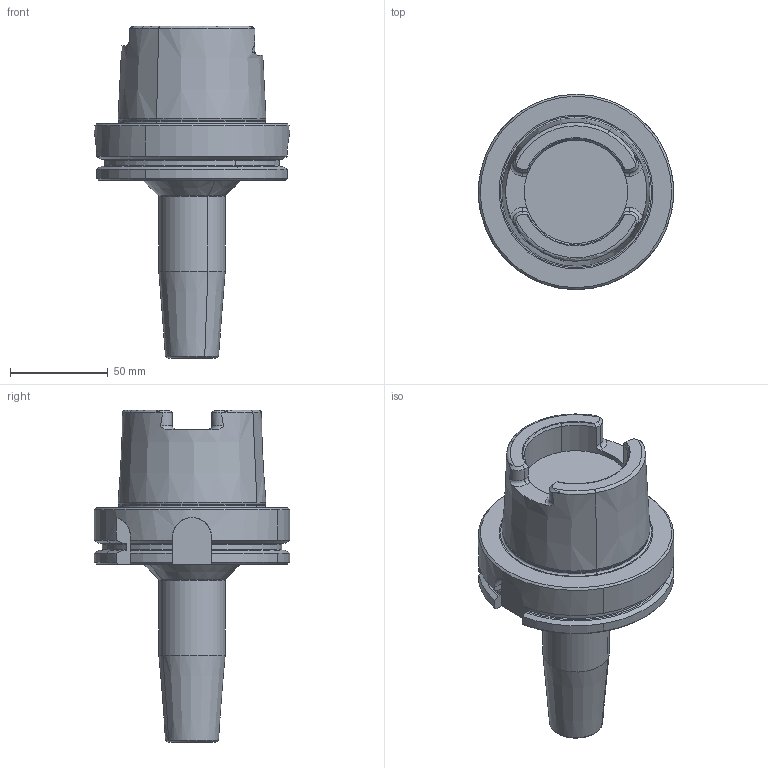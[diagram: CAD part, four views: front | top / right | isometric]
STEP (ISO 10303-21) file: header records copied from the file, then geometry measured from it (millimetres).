
FILE_DESCRIPTION(('CATIA V5 STEP Exchange','CAx-IF Rec.Pracs.--- Model Styling and Organization---1.2---2011-12-15'),'2;1');
FILE_NAME('I:\isr\design\admin8\users\tamer_s\4504234 L.stp','2014-04-03T12:23:03+00:00',('none'),('none'),'CATIA Version 5 Release 21 SP 5 (IN-10)','CATIA V5 STEP AP214','none');
FILE_SCHEMA(('AUTOMOTIVE_DESIGN { 1 0 10303 214 1 1 1 1 }'));
Length unit declared in the file: millimetre
Products named in the file (1): 60977811_0 Holder-Tool HSK A 100 SRKIN 16X120
Bounding box: 100 x 100 x 170 mm (x, y, z)
Volume: 463287.7 mm3; surface area: 47659.6 mm2
Topology: 1 solids, 1 shells, 137 faces, 350 edges, 218 vertices
Faces by surface type: plane 37, cone 35, cylinder 33, torus 32
Entity records: 4182 total; most frequent: CARTESIAN_POINT 1241, ORIENTED_EDGE 700, DIRECTION 439, EDGE_CURVE 350, AXIS2_PLACEMENT_3D 241, VERTEX_POINT 218, CIRCLE 159, EDGE_LOOP 140
